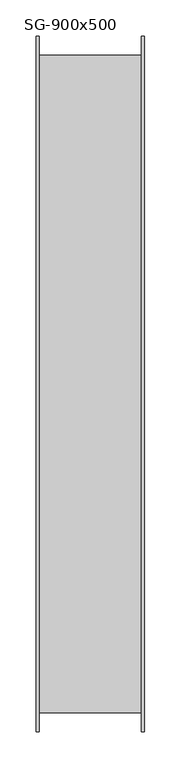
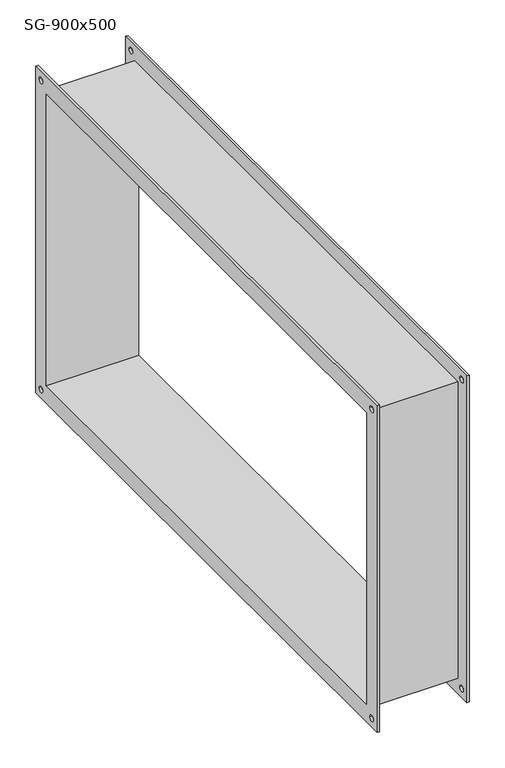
"""IFC4 building model written with IfcOpenShell, lengths in millimetres: damper geometry, СВ_ГибкаяВставка_КанальнаяПрямоугольная_200-1000_SG : SG-900x500."""

from ifc_helpers import new_model, si_unit, frame, origin, place, context, project, spatial, polyline, circle_curve, source, transform, mapped, element, save
from ifc_brep_helpers import plane_surface, revolved_surface, advanced_brep


def sg_900x500_4b1ce5bb(model_context):
    return source(origin(), model_context, "Body", "AdvancedBrep", [
        advanced_brep(
        [(71.0, -454.0, 254.0), (-71.0, -454.0, 254.0), (-71.0, -454.0, -254.0), (71.0, -454.0, -254.0), (-71.0, 454.0, -254.0), (71.0, 454.0, -254.0), (-71.0, 454.0, 254.0), (71.0, 454.0, 254.0), (-75.0, -480.0, 280.0), (-75.0, 480.0, 280.0), (-75.0, 480.0, -280.0), (-75.0, -480.0, -280.0), (-75.0, -450.0, 250.0), (-75.0, -450.0, -250.0), (-75.0, 450.0, -250.0), (-75.0, 450.0, 250.0), (-75.0, 460.0, 265.0), (-75.0, 470.0, 265.0), (-75.0, 460.0, -265.0), (-75.0, 470.0, -265.0), (-75.0, -470.0, 265.0), (-75.0, -460.0, 265.0), (-75.0, -470.0, -265.0), (-75.0, -460.0, -265.0), (-71.0, -480.0, 280.0), (-71.0, -480.0, -280.0), (-71.0, 480.0, -280.0), (-71.0, 480.0, 280.0), (-71.0, 470.0, 265.0), (-71.0, 460.0, 265.0), (-71.0, 470.0, -265.0), (-71.0, 460.0, -265.0), (-71.0, -460.0, 265.0), (-71.0, -470.0, 265.0), (-71.0, -460.0, -265.0), (-71.0, -470.0, -265.0), (71.0, 480.0, 280.0), (71.0, 480.0, -280.0), (71.0, -480.0, -280.0), (71.0, -480.0, 280.0), (71.0, 460.0, 265.0), (71.0, 470.0, 265.0), (71.0, 460.0, -265.0), (71.0, 470.0, -265.0), (71.0, -470.0, 265.0), (71.0, -460.0, 265.0), (71.0, -470.0, -265.0), (71.0, -460.0, -265.0), (75.0, 480.0, 280.0), (75.0, -480.0, 280.0), (75.0, -480.0, -280.0), (75.0, 480.0, -280.0), (75.0, 450.0, 250.0), (75.0, 450.0, -250.0), (75.0, -450.0, -250.0), (75.0, -450.0, 250.0), (75.0, 470.0, 265.0), (75.0, 460.0, 265.0), (75.0, 470.0, -265.0), (75.0, 460.0, -265.0), (75.0, -460.0, 265.0), (75.0, -470.0, 265.0), (75.0, -460.0, -265.0), (75.0, -470.0, -265.0)],
        [
            (0, 1),
            (1, 2),
            (2, 3),
            (3, 0),
            (2, 4),
            (4, 5),
            (5, 3),
            (4, 6),
            (6, 7),
            (7, 5),
            (0, 7),
            (6, 1),
            (8, 9),
            (9, 10),
            (10, 11),
            (11, 8),
            (12, 13),
            (13, 14),
            (14, 15),
            (15, 12),
            (16, 17, circle_curve(frame((-75.0, 465.0, 265.0), z_axis=(1.0, 0.0, 0.0), x_axis=(0.0, 1.0, 0.0)), 5.0)),
            (17, 16, circle_curve(frame((-75.0, 465.0, 265.0), z_axis=(1.0, 0.0, 0.0), x_axis=(0.0, 1.0, 0.0)), 5.0)),
            (18, 19, circle_curve(frame((-75.0, 465.0, -265.0), z_axis=(1.0, 0.0, 0.0), x_axis=(0.0, 1.0, 0.0)), 5.0)),
            (19, 18, circle_curve(frame((-75.0, 465.0, -265.0), z_axis=(1.0, 0.0, 0.0), x_axis=(0.0, 1.0, 0.0)), 5.0)),
            (20, 21, circle_curve(frame((-75.0, -465.0, 265.0), z_axis=(1.0, 0.0, 0.0), x_axis=(0.0, 1.0, 0.0)), 5.0)),
            (21, 20, circle_curve(frame((-75.0, -465.0, 265.0), z_axis=(1.0, 0.0, 0.0), x_axis=(0.0, 1.0, 0.0)), 5.0)),
            (22, 23, circle_curve(frame((-75.0, -465.0, -265.0), z_axis=(1.0, 0.0, 0.0), x_axis=(0.0, 1.0, 0.0)), 5.0)),
            (23, 22, circle_curve(frame((-75.0, -465.0, -265.0), z_axis=(1.0, 0.0, 0.0), x_axis=(0.0, 1.0, 0.0)), 5.0)),
            (24, 25),
            (25, 26),
            (26, 27),
            (27, 24),
            (28, 29, circle_curve(frame((-71.0, 465.0, 265.0), z_axis=(-1.0, 0.0, 0.0), x_axis=(0.0, 1.0, 0.0)), 5.0)),
            (29, 28, circle_curve(frame((-71.0, 465.0, 265.0), z_axis=(-1.0, 0.0, 0.0), x_axis=(0.0, 1.0, 0.0)), 5.0)),
            (30, 31, circle_curve(frame((-71.0, 465.0, -265.0), z_axis=(-1.0, 0.0, 0.0), x_axis=(0.0, 1.0, 0.0)), 5.0)),
            (31, 30, circle_curve(frame((-71.0, 465.0, -265.0), z_axis=(-1.0, 0.0, 0.0), x_axis=(0.0, 1.0, 0.0)), 5.0)),
            (32, 33, circle_curve(frame((-71.0, -465.0, 265.0), z_axis=(-1.0, 0.0, 0.0), x_axis=(0.0, 1.0, 0.0)), 5.0)),
            (33, 32, circle_curve(frame((-71.0, -465.0, 265.0), z_axis=(-1.0, 0.0, 0.0), x_axis=(0.0, 1.0, 0.0)), 5.0)),
            (34, 35, circle_curve(frame((-71.0, -465.0, -265.0), z_axis=(-1.0, 0.0, 0.0), x_axis=(0.0, 1.0, 0.0)), 5.0)),
            (35, 34, circle_curve(frame((-71.0, -465.0, -265.0), z_axis=(-1.0, 0.0, 0.0), x_axis=(0.0, 1.0, 0.0)), 5.0)),
            (11, 25),
            (24, 8),
            (10, 26),
            (9, 27),
            (36, 37),
            (37, 38),
            (38, 39),
            (39, 36),
            (40, 41, circle_curve(frame((71.0, 465.0, 265.0), z_axis=(1.0, 0.0, 0.0), x_axis=(0.0, 1.0, 0.0)), 5.0)),
            (41, 40, circle_curve(frame((71.0, 465.0, 265.0), z_axis=(1.0, 0.0, 0.0), x_axis=(0.0, 1.0, 0.0)), 5.0)),
            (42, 43, circle_curve(frame((71.0, 465.0, -265.0), z_axis=(1.0, 0.0, 0.0), x_axis=(0.0, 1.0, 0.0)), 5.0)),
            (43, 42, circle_curve(frame((71.0, 465.0, -265.0), z_axis=(1.0, 0.0, 0.0), x_axis=(0.0, 1.0, 0.0)), 5.0)),
            (44, 45, circle_curve(frame((71.0, -465.0, 265.0), z_axis=(1.0, 0.0, 0.0), x_axis=(0.0, 1.0, 0.0)), 5.0)),
            (45, 44, circle_curve(frame((71.0, -465.0, 265.0), z_axis=(1.0, 0.0, 0.0), x_axis=(0.0, 1.0, 0.0)), 5.0)),
            (46, 47, circle_curve(frame((71.0, -465.0, -265.0), z_axis=(1.0, 0.0, 0.0), x_axis=(0.0, 1.0, 0.0)), 5.0)),
            (47, 46, circle_curve(frame((71.0, -465.0, -265.0), z_axis=(1.0, 0.0, 0.0), x_axis=(0.0, 1.0, 0.0)), 5.0)),
            (48, 49),
            (49, 50),
            (50, 51),
            (51, 48),
            (52, 53),
            (53, 54),
            (54, 55),
            (55, 52),
            (56, 57, circle_curve(frame((75.0, 465.0, 265.0), z_axis=(-1.0, 0.0, 0.0), x_axis=(0.0, 1.0, 0.0)), 5.0)),
            (57, 56, circle_curve(frame((75.0, 465.0, 265.0), z_axis=(-1.0, 0.0, 0.0), x_axis=(0.0, 1.0, 0.0)), 5.0)),
            (58, 59, circle_curve(frame((75.0, 465.0, -265.0), z_axis=(-1.0, 0.0, 0.0), x_axis=(0.0, 1.0, 0.0)), 5.0)),
            (59, 58, circle_curve(frame((75.0, 465.0, -265.0), z_axis=(-1.0, 0.0, 0.0), x_axis=(0.0, 1.0, 0.0)), 5.0)),
            (60, 61, circle_curve(frame((75.0, -465.0, 265.0), z_axis=(-1.0, 0.0, 0.0), x_axis=(0.0, 1.0, 0.0)), 5.0)),
            (61, 60, circle_curve(frame((75.0, -465.0, 265.0), z_axis=(-1.0, 0.0, 0.0), x_axis=(0.0, 1.0, 0.0)), 5.0)),
            (62, 63, circle_curve(frame((75.0, -465.0, -265.0), z_axis=(-1.0, 0.0, 0.0), x_axis=(0.0, 1.0, 0.0)), 5.0)),
            (63, 62, circle_curve(frame((75.0, -465.0, -265.0), z_axis=(-1.0, 0.0, 0.0), x_axis=(0.0, 1.0, 0.0)), 5.0)),
            (39, 49),
            (48, 36),
            (38, 50),
            (37, 51),
            (15, 52),
            (55, 12),
            (14, 53),
            (13, 54),
            (16, 29),
            (28, 17),
            (40, 57),
            (56, 41),
            (18, 31),
            (30, 19),
            (42, 59),
            (58, 43),
            (20, 33),
            (32, 21),
            (44, 61),
            (60, 45),
            (22, 35),
            (34, 23),
            (46, 63),
            (62, 47),
        ],
        [
            plane_surface(frame((71.0, -454.0, 254.0), z_axis=(0.0, -1.0, 0.0), x_axis=(-1.0, 0.0, 0.0))),
            plane_surface(frame((71.0, -454.0, -254.0), z_axis=(0.0, 0.0, -1.0), x_axis=(-1.0, 0.0, 0.0))),
            plane_surface(frame((71.0, 454.0, -254.0), z_axis=(0.0, 1.0, 0.0), x_axis=(-1.0, 0.0, 0.0))),
            plane_surface(frame((71.0, 454.0, 254.0), z_axis=(0.0, 0.0, 1.0), x_axis=(-1.0, 0.0, 0.0))),
            plane_surface(frame((-75.0, -480.0, 280.0), z_axis=(-1.0, 0.0, 0.0), x_axis=(0.0, 0.0, 1.0))),
            plane_surface(frame((-71.0, -480.0, 280.0), z_axis=(1.0, 0.0, 0.0), x_axis=(0.0, 0.0, -1.0))),
            plane_surface(frame((-71.0, -480.0, 280.0), z_axis=(0.0, -1.0, 0.0), x_axis=(-1.0, 0.0, 0.0))),
            plane_surface(frame((-71.0, -480.0, -280.0), z_axis=(0.0, 0.0, -1.0), x_axis=(-1.0, 0.0, 0.0))),
            plane_surface(frame((-71.0, 480.0, -280.0), z_axis=(0.0, 1.0, 0.0), x_axis=(-1.0, 0.0, 0.0))),
            plane_surface(frame((-71.0, 480.0, 280.0), z_axis=(0.0, 0.0, 1.0), x_axis=(-1.0, 0.0, 0.0))),
            plane_surface(frame((71.0, 450.0, -250.0), z_axis=(-1.0, 0.0, 0.0), x_axis=(0.0, 0.0, 1.0))),
            plane_surface(frame((75.0, 450.0, -250.0), z_axis=(1.0, 0.0, 0.0), x_axis=(0.0, 0.0, -1.0))),
            plane_surface(frame((75.0, 480.0, 280.0), z_axis=(0.0, 0.0, 1.0), x_axis=(-1.0, 0.0, 0.0))),
            plane_surface(frame((75.0, -480.0, 280.0), z_axis=(0.0, -1.0, 0.0), x_axis=(-1.0, 0.0, 0.0))),
            plane_surface(frame((75.0, -480.0, -280.0), z_axis=(0.0, 0.0, -1.0), x_axis=(-1.0, 0.0, 0.0))),
            plane_surface(frame((75.0, 480.0, -280.0), z_axis=(0.0, 1.0, 0.0), x_axis=(-1.0, 0.0, 0.0))),
            plane_surface(frame((-71.0, -450.0, 250.0), z_axis=(0.0, 0.0, -1.0), x_axis=(-1.0, 0.0, 0.0))),
            plane_surface(frame((-71.0, 450.0, 250.0), z_axis=(0.0, -1.0, 0.0), x_axis=(-1.0, 0.0, 0.0))),
            plane_surface(frame((-71.0, 450.0, -250.0), z_axis=(0.0, 0.0, 1.0), x_axis=(-1.0, 0.0, 0.0))),
            plane_surface(frame((-71.0, -450.0, -250.0), z_axis=(0.0, 1.0, 0.0), x_axis=(-1.0, 0.0, 0.0))),
            revolved_surface(polyline([(-71.0, 470.0, 265.0), (-75.0, 470.0, 265.0)]), (-75.0, 465.0, 265.0), (1.0, 0.0, 0.0)),
            revolved_surface(polyline([(75.0, 470.0, 265.0), (71.0, 470.0, 265.0)]), (-75.0, 465.0, 265.0), (1.0, 0.0, 0.0)),
            revolved_surface(polyline([(-71.0, 470.0, -265.0), (-75.0, 470.0, -265.0)]), (0.0, 465.0, -265.0), (1.0, 0.0, 0.0)),
            revolved_surface(polyline([(75.0, 470.0, -265.0), (71.0, 470.0, -265.0)]), (0.0, 465.0, -265.0), (1.0, 0.0, 0.0)),
            revolved_surface(polyline([(-71.0, -460.0, 265.0), (-75.0, -460.0, 265.0)]), (0.0, -465.0, 265.0), (1.0, 0.0, 0.0)),
            revolved_surface(polyline([(75.0, -460.0, 265.0), (71.0, -460.0, 265.0)]), (0.0, -465.0, 265.0), (1.0, 0.0, 0.0)),
            revolved_surface(polyline([(-71.0, -460.0, -265.0), (-75.0, -460.0, -265.0)]), (0.0, -465.0, -265.0), (1.0, 0.0, 0.0)),
            revolved_surface(polyline([(75.0, -460.0, -265.0), (71.0, -460.0, -265.0)]), (0.0, -465.0, -265.0), (1.0, 0.0, 0.0)),
        ],
        [
            (0, [[1, 2, 3, 4]]),
            (1, [[-3, 5, 6, 7]]),
            (2, [[-6, 8, 9, 10]]),
            (3, [[-1, 11, -9, 12]]),
            (4, [[13, 14, 15, 16], [17, 18, 19, 20], [21, 22], [23, 24], [25, 26], [27, 28]]),
            (5, [[29, 30, 31, 32], [-2, -12, -8, -5], [33, 34], [35, 36], [37, 38], [39, 40]]),
            (6, [[-16, 41, -29, 42]]),
            (7, [[-15, 43, -30, -41]]),
            (8, [[-14, 44, -31, -43]]),
            (9, [[-13, -42, -32, -44]]),
            (10, [[45, 46, 47, 48], [-4, -7, -10, -11], [49, 50], [51, 52], [53, 54], [55, 56]]),
            (11, [[57, 58, 59, 60], [61, 62, 63, 64], [65, 66], [67, 68], [69, 70], [71, 72]]),
            (12, [[-48, 73, -57, 74]]),
            (13, [[-47, 75, -58, -73]]),
            (14, [[-46, 76, -59, -75]]),
            (15, [[-45, -74, -60, -76]]),
            (16, [[-20, 77, -64, 78]]),
            (17, [[-77, -19, 79, -61]]),
            (18, [[-79, -18, 80, -62]]),
            (19, [[-80, -17, -78, -63]]),
            (20, [[81, -33, 82, -21]]),
            (21, [[83, -65, 84, -49]]),
            (20, [[-81, -22, -82, -34]]),
            (21, [[-83, -50, -84, -66]]),
            (22, [[85, -35, 86, -23]]),
            (23, [[87, -67, 88, -51]]),
            (22, [[-85, -24, -86, -36]]),
            (23, [[-87, -52, -88, -68]]),
            (24, [[89, -37, 90, -25]]),
            (25, [[91, -69, 92, -53]]),
            (24, [[-89, -26, -90, -38]]),
            (25, [[-91, -54, -92, -70]]),
            (26, [[93, -39, 94, -27]]),
            (27, [[95, -71, 96, -55]]),
            (26, [[-93, -28, -94, -40]]),
            (27, [[-95, -56, -96, -72]]),
        ],
    ),
    ])


if __name__ == "__main__":
    model = new_model("IFC4")
    model_context = context("Model", 3, world=origin())
    ifc_project = project(units=[si_unit("LENGTHUNIT", "METRE", prefix="MILLI")], contexts=[model_context])
    site = spatial("IfcSite", under=ifc_project)
    building = spatial("IfcBuilding", under=site)
    placement = place(None, origin())
    sg_900x500_shape = sg_900x500_4b1ce5bb(model_context)
    element("IfcDamper", 1, ObjectType="СВ_ГибкаяВставка_КанальнаяПрямоугольная_200-1000_SG : SG-900x500", at=placement, inside=building, context=model_context, shape_type="MappedRepresentation", body=[
        mapped(sg_900x500_shape, transform((0.0, 0.0, 0.0), x_axis=(1.0, 0.0, 0.0), y_axis=(0.0, 1.0, 0.0), z_axis=(0.0, 0.0, 1.0))),
    ])
    save(model, "model.ifc")
